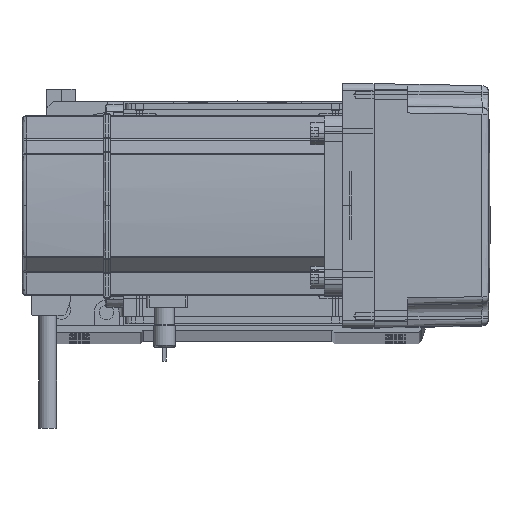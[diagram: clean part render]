
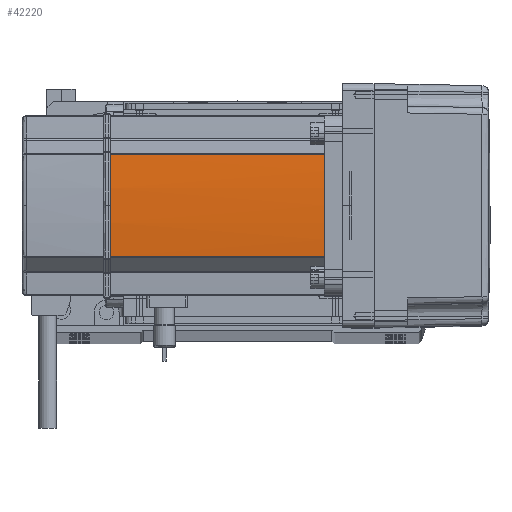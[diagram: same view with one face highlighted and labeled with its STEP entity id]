
A CAD part, top view. The second image highlights one B-rep face of the part: STEP entity #42220.
In plain terms, the highlighted cylindrical face has radius 270 mm (diameter 540 mm), a partial arc.
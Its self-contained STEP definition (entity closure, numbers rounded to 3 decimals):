
#2952 = CARTESIAN_POINT ( 'NONE',  ( -39.042, 22.724, 39. ) ) ;
#4283 = CARTESIAN_POINT ( 'NONE',  ( 230., 0., 0. ) ) ;
#4680 = DIRECTION ( 'NONE',  ( 0., 0., 1. ) ) ;
#7877 = VECTOR ( 'NONE', #18743, 1000. ) ;
#8446 = ORIENTED_EDGE ( 'NONE', *, *, #12829, .T. ) ;
#11665 = VERTEX_POINT ( 'NONE', #34561 ) ;
#11794 = CARTESIAN_POINT ( 'NONE',  ( -39.042, -22.724, 39. ) ) ;
#12797 = EDGE_LOOP ( 'NONE', ( #25946, #59229, #8446, #64093, #20789 ) ) ;
#12829 = EDGE_CURVE ( 'NONE', #34125, #21139, #59787, .T. ) ;
#12847 = CARTESIAN_POINT ( 'NONE',  ( -39.042, 22.724, 0. ) ) ;
#13327 = CARTESIAN_POINT ( 'NONE',  ( -39.042, 22.724, 134. ) ) ;
#14745 = CARTESIAN_POINT ( 'NONE',  ( 230., 0., 134. ) ) ;
#16259 = CARTESIAN_POINT ( 'NONE',  ( -40., 0., 134. ) ) ;
#17225 = VERTEX_POINT ( 'NONE', #16259 ) ;
#18743 = DIRECTION ( 'NONE',  ( 0., 0., -1. ) ) ;
#19709 = VECTOR ( 'NONE', #4680, 1000. ) ;
#20789 = ORIENTED_EDGE ( 'NONE', *, *, #22189, .T. ) ;
#21139 = VERTEX_POINT ( 'NONE', #2952 ) ;
#22189 = EDGE_CURVE ( 'NONE', #46240, #11665, #40135, .T. ) ;
#22302 = CARTESIAN_POINT ( 'NONE',  ( 230., 0., 39. ) ) ;
#23240 = CIRCLE ( 'NONE', #53856, 270. ) ;
#25946 = ORIENTED_EDGE ( 'NONE', *, *, #56877, .T. ) ;
#34125 = VERTEX_POINT ( 'NONE', #13327 ) ;
#34561 = CARTESIAN_POINT ( 'NONE',  ( -39.042, -22.724, 134. ) ) ;
#37291 = DIRECTION ( 'NONE',  ( 0., 0., -1. ) ) ;
#38635 = DIRECTION ( 'NONE',  ( 0., 0., -1. ) ) ;
#39645 = DIRECTION ( 'NONE',  ( 0., 0., 1. ) ) ;
#39944 = CARTESIAN_POINT ( 'NONE',  ( 230., 0., 134. ) ) ;
#39984 = DIRECTION ( 'NONE',  ( 1., 0., 0. ) ) ;
#40135 = LINE ( 'NONE', #64832, #19709 ) ;
#42220 = ADVANCED_FACE ( 'NONE', ( #42251 ), #46192, .T. ) ;
#42251 = FACE_OUTER_BOUND ( 'NONE', #12797, .T. ) ;
#43730 = EDGE_CURVE ( 'NONE', #17225, #34125, #23240, .T. ) ;
#45438 = DIRECTION ( 'NONE',  ( 0., 0., -1. ) ) ;
#46192 = CYLINDRICAL_SURFACE ( 'NONE', #47163, 270. ) ;
#46240 = VERTEX_POINT ( 'NONE', #11794 ) ;
#47163 = AXIS2_PLACEMENT_3D ( 'NONE', #4283, #39645, #54764 ) ;
#48388 = AXIS2_PLACEMENT_3D ( 'NONE', #39944, #38635, #55070 ) ;
#51910 = DIRECTION ( 'NONE',  ( 1., 0., 0. ) ) ;
#53856 = AXIS2_PLACEMENT_3D ( 'NONE', #14745, #45438, #39984 ) ;
#54017 = AXIS2_PLACEMENT_3D ( 'NONE', #22302, #37291, #51910 ) ;
#54764 = DIRECTION ( 'NONE',  ( 1., 0., 0. ) ) ;
#55070 = DIRECTION ( 'NONE',  ( 1., 0., 0. ) ) ;
#56877 = EDGE_CURVE ( 'NONE', #11665, #17225, #59618, .T. ) ;
#58256 = EDGE_CURVE ( 'NONE', #46240, #21139, #64135, .T. ) ;
#59229 = ORIENTED_EDGE ( 'NONE', *, *, #43730, .T. ) ;
#59618 = CIRCLE ( 'NONE', #48388, 270. ) ;
#59787 = LINE ( 'NONE', #12847, #7877 ) ;
#64093 = ORIENTED_EDGE ( 'NONE', *, *, #58256, .F. ) ;
#64135 = CIRCLE ( 'NONE', #54017, 270. ) ;
#64832 = CARTESIAN_POINT ( 'NONE',  ( -39.042, -22.724, 0. ) ) ;
